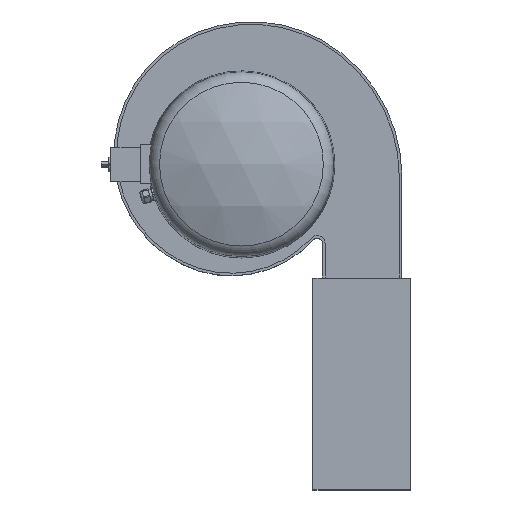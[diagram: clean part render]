
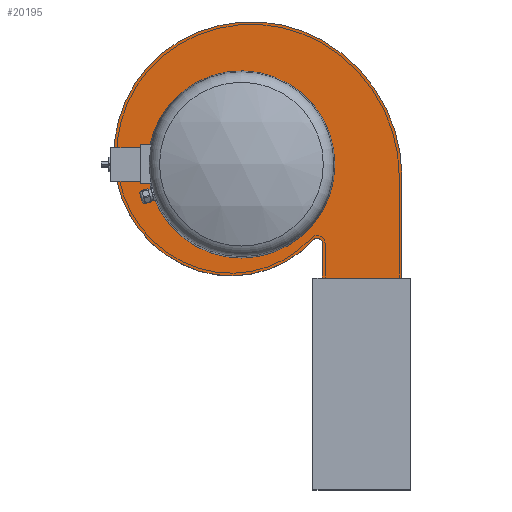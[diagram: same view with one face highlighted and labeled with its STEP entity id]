
A CAD part, top view. The second image highlights one B-rep face of the part: STEP entity #20195.
In plain terms, the highlighted planar face has unit normal (0, 0, 1).
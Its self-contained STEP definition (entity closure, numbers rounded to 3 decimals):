
#458=PLANE('',#21186);
#831=CIRCLE('',#20703,180.);
#949=CIRCLE('',#21187,302.683);
#950=CIRCLE('',#21188,275.812);
#951=CIRCLE('',#21189,253.209);
#952=CIRCLE('',#21190,233.749);
#953=CIRCLE('',#21191,215.217);
#954=CIRCLE('',#21192,10.);
#1123=FACE_BOUND('',#3978,.T.);
#2749=FACE_OUTER_BOUND('',#3977,.T.);
#3977=EDGE_LOOP('',(#17723,#17724,#17725,#17726,#17727,#17728,#17729,#17730,
#17731));
#3978=EDGE_LOOP('',(#17732));
#4648=LINE('',#37043,#6385);
#5541=LINE('',#39294,#7278);
#5542=LINE('',#39307,#7279);
#6385=VECTOR('',#22225,10.);
#7278=VECTOR('',#24236,10.);
#7279=VECTOR('',#24249,10.);
#9267=VERTEX_POINT('',#37040);
#9268=VERTEX_POINT('',#37042);
#9788=VERTEX_POINT('',#38167);
#9961=VERTEX_POINT('',#39293);
#9962=VERTEX_POINT('',#39295);
#9963=VERTEX_POINT('',#39297);
#9964=VERTEX_POINT('',#39299);
#9965=VERTEX_POINT('',#39301);
#9966=VERTEX_POINT('',#39303);
#9967=VERTEX_POINT('',#39305);
#11579=EDGE_CURVE('',#9268,#9267,#4648,.T.);
#12110=EDGE_CURVE('',#9788,#9788,#831,.T.);
#12616=EDGE_CURVE('',#9961,#9267,#5541,.T.);
#12617=EDGE_CURVE('',#9962,#9961,#949,.T.);
#12618=EDGE_CURVE('',#9963,#9962,#950,.T.);
#12619=EDGE_CURVE('',#9964,#9963,#951,.T.);
#12620=EDGE_CURVE('',#9965,#9964,#952,.T.);
#12621=EDGE_CURVE('',#9966,#9965,#953,.T.);
#12622=EDGE_CURVE('',#9967,#9966,#954,.T.);
#12623=EDGE_CURVE('',#9268,#9967,#5542,.T.);
#17723=ORIENTED_EDGE('',*,*,#11579,.T.);
#17724=ORIENTED_EDGE('',*,*,#12616,.F.);
#17725=ORIENTED_EDGE('',*,*,#12617,.F.);
#17726=ORIENTED_EDGE('',*,*,#12618,.F.);
#17727=ORIENTED_EDGE('',*,*,#12619,.F.);
#17728=ORIENTED_EDGE('',*,*,#12620,.F.);
#17729=ORIENTED_EDGE('',*,*,#12621,.F.);
#17730=ORIENTED_EDGE('',*,*,#12622,.F.);
#17731=ORIENTED_EDGE('',*,*,#12623,.F.);
#17732=ORIENTED_EDGE('',*,*,#12110,.T.);
#20195=ADVANCED_FACE('',(#2749,#1123),#458,.F.);
#20703=AXIS2_PLACEMENT_3D('',#38168,#22905,#22906);
#21186=AXIS2_PLACEMENT_3D('',#39292,#24234,#24235);
#21187=AXIS2_PLACEMENT_3D('',#39296,#24237,#24238);
#21188=AXIS2_PLACEMENT_3D('',#39298,#24239,#24240);
#21189=AXIS2_PLACEMENT_3D('',#39300,#24241,#24242);
#21190=AXIS2_PLACEMENT_3D('',#39302,#24243,#24244);
#21191=AXIS2_PLACEMENT_3D('',#39304,#24245,#24246);
#21192=AXIS2_PLACEMENT_3D('',#39306,#24247,#24248);
#22225=DIRECTION('',(1.,0.,0.));
#22905=DIRECTION('center_axis',(0.,0.,-1.));
#22906=DIRECTION('ref_axis',(1.,0.,0.));
#24234=DIRECTION('center_axis',(0.,0.,-1.));
#24235=DIRECTION('ref_axis',(-1.,0.,0.));
#24236=DIRECTION('',(0.,-1.,0.));
#24237=DIRECTION('center_axis',(0.,0.,-1.));
#24238=DIRECTION('ref_axis',(1.,0.,0.));
#24239=DIRECTION('center_axis',(0.,0.,-1.));
#24240=DIRECTION('ref_axis',(0.495,0.869,0.));
#24241=DIRECTION('center_axis',(0.,0.,-1.));
#24242=DIRECTION('ref_axis',(-0.513,0.859,0.));
#24243=DIRECTION('center_axis',(0.,0.,-1.));
#24244=DIRECTION('ref_axis',(-0.999,-0.043,0.));
#24245=DIRECTION('center_axis',(0.,0.,-1.));
#24246=DIRECTION('ref_axis',(-0.439,-0.898,0.));
#24247=DIRECTION('center_axis',(0.,0.,1.));
#24248=DIRECTION('ref_axis',(-1.,0.,0.));
#24249=DIRECTION('',(0.,1.,0.));
#37040=CARTESIAN_POINT('',(309.,-218.5,2.));
#37042=CARTESIAN_POINT('',(156.,-218.5,2.));
#37043=CARTESIAN_POINT('',(180.616,-218.5,2.));
#38167=CARTESIAN_POINT('',(-180.,0.,2.));
#38168=CARTESIAN_POINT('Origin',(0.,0.,
2.));
#39292=CARTESIAN_POINT('Origin',(58.334,-58.339,2.));
#39293=CARTESIAN_POINT('',(309.,-24.345,2.));
#39294=CARTESIAN_POINT('',(309.,-220.,2.));
#39295=CARTESIAN_POINT('',(156.,238.737,2.));
#39296=CARTESIAN_POINT('Origin',(6.317,-24.345,2.));
#39297=CARTESIAN_POINT('',(-121.76,235.84,2.));
#39298=CARTESIAN_POINT('Origin',(19.605,-0.99,2.));
#39299=CARTESIAN_POINT('',(-244.956,7.563,2.));
#39300=CARTESIAN_POINT('Origin',(8.02,18.419,2.));
#39301=CARTESIAN_POINT('',(-114.085,-192.413,2.));
#39302=CARTESIAN_POINT('Origin',(-11.422,17.585,2.));
#39303=CARTESIAN_POINT('',(138.649,-144.969,2.));
#39304=CARTESIAN_POINT('Origin',(-19.561,0.935,2.));
#39305=CARTESIAN_POINT('',(156.,-151.748,2.));
#39306=CARTESIAN_POINT('Origin',(146.,-151.748,2.));
#39307=CARTESIAN_POINT('',(156.,-151.748,2.));
